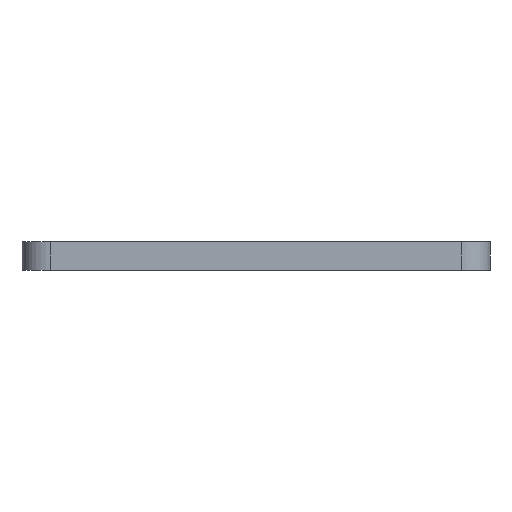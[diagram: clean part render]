
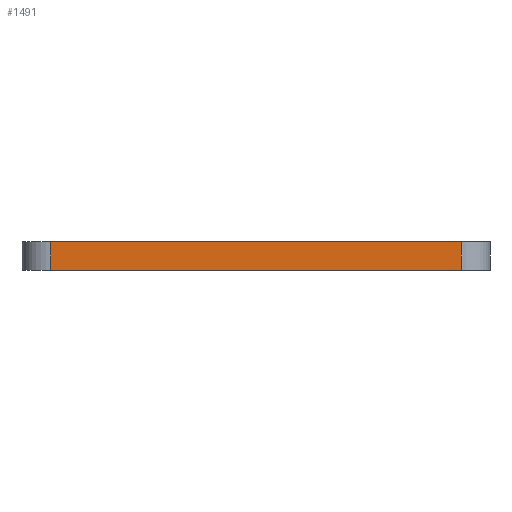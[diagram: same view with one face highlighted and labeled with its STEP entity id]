
A CAD part, front view. The second image highlights one B-rep face of the part: STEP entity #1491.
In plain terms, the highlighted planar face has unit normal (0, -1, 0).
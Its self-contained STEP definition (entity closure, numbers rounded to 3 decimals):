
#80 = DIRECTION ( 'NONE',  ( 1., 0., 0. ) ) ;
#165 = VERTEX_POINT ( 'NONE', #213 ) ;
#213 = CARTESIAN_POINT ( 'NONE',  ( 122., 0., 0. ) ) ;
#218 = AXIS2_PLACEMENT_3D ( 'NONE', #1726, #1578, #849 ) ;
#331 = VERTEX_POINT ( 'NONE', #685 ) ;
#334 = ORIENTED_EDGE ( 'NONE', *, *, #366, .F. ) ;
#366 = EDGE_CURVE ( 'NONE', #498, #165, #596, .T. ) ;
#382 = EDGE_LOOP ( 'NONE', ( #1365, #334, #454, #710 ) ) ;
#409 = PLANE ( 'NONE',  #218 ) ;
#454 = ORIENTED_EDGE ( 'NONE', *, *, #1665, .F. ) ;
#472 = VECTOR ( 'NONE', #771, 1000. ) ;
#498 = VERTEX_POINT ( 'NONE', #874 ) ;
#596 = LINE ( 'NONE', #838, #917 ) ;
#627 = CARTESIAN_POINT ( 'NONE',  ( 8., 0., 8. ) ) ;
#632 = FACE_OUTER_BOUND ( 'NONE', #382, .T. ) ;
#677 = DIRECTION ( 'NONE',  ( 0., 0., -1. ) ) ;
#685 = CARTESIAN_POINT ( 'NONE',  ( 8., 0., 8. ) ) ;
#710 = ORIENTED_EDGE ( 'NONE', *, *, #1327, .T. ) ;
#721 = LINE ( 'NONE', #1786, #1330 ) ;
#758 = EDGE_CURVE ( 'NONE', #1802, #165, #1335, .T. ) ;
#771 = DIRECTION ( 'NONE',  ( 0., 0., -1. ) ) ;
#806 = CARTESIAN_POINT ( 'NONE',  ( 8., 0., 0. ) ) ;
#838 = CARTESIAN_POINT ( 'NONE',  ( 122., 0., 8. ) ) ;
#845 = LINE ( 'NONE', #627, #472 ) ;
#849 = DIRECTION ( 'NONE',  ( 0., 0., 1. ) ) ;
#874 = CARTESIAN_POINT ( 'NONE',  ( 122., 0., 8. ) ) ;
#909 = DIRECTION ( 'NONE',  ( 1., 0., 0. ) ) ;
#917 = VECTOR ( 'NONE', #677, 1000. ) ;
#1223 = CARTESIAN_POINT ( 'NONE',  ( 8., 0., 0. ) ) ;
#1327 = EDGE_CURVE ( 'NONE', #331, #1802, #845, .T. ) ;
#1330 = VECTOR ( 'NONE', #909, 1000. ) ;
#1335 = LINE ( 'NONE', #806, #1686 ) ;
#1365 = ORIENTED_EDGE ( 'NONE', *, *, #758, .T. ) ;
#1491 = ADVANCED_FACE ( 'NONE', ( #632 ), #409, .F. ) ;
#1578 = DIRECTION ( 'NONE',  ( 0., 1., 0. ) ) ;
#1665 = EDGE_CURVE ( 'NONE', #331, #498, #721, .T. ) ;
#1686 = VECTOR ( 'NONE', #80, 1000. ) ;
#1726 = CARTESIAN_POINT ( 'NONE',  ( 8., 0., 8. ) ) ;
#1786 = CARTESIAN_POINT ( 'NONE',  ( 8., 0., 8. ) ) ;
#1802 = VERTEX_POINT ( 'NONE', #1223 ) ;
